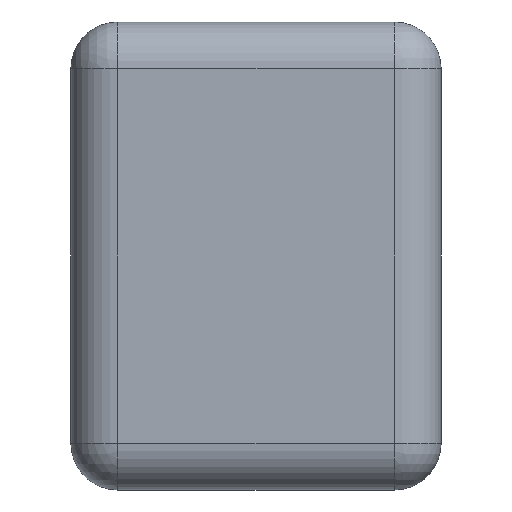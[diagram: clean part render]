
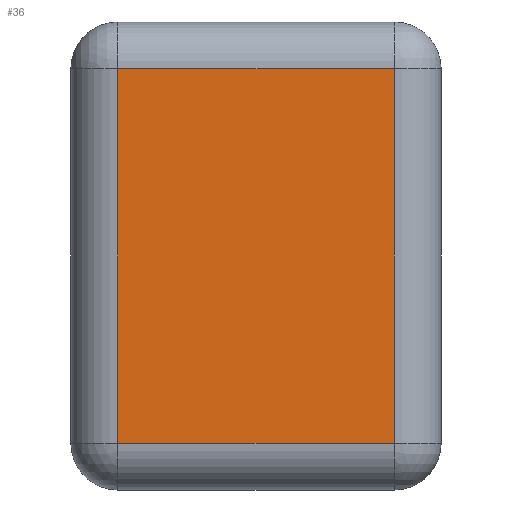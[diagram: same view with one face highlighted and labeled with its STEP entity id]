
A CAD part, left-side view. The second image highlights one B-rep face of the part: STEP entity #36.
In plain terms, the highlighted planar face has unit normal (-1, 0, 0).
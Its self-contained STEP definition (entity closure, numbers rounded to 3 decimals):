
#36 = ADVANCED_FACE('',(#37),#51,.F.);
#37 = FACE_BOUND('',#38,.F.);
#38 = EDGE_LOOP('',(#39,#74,#102,#130));
#39 = ORIENTED_EDGE('',*,*,#40,.F.);
#40 = EDGE_CURVE('',#41,#43,#45,.T.);
#41 = VERTEX_POINT('',#42);
#42 = CARTESIAN_POINT('',(-3.05,-1.98,0.67));
#43 = VERTEX_POINT('',#44);
#44 = CARTESIAN_POINT('',(-3.05,-1.98,6.03));
#45 = SURFACE_CURVE('',#46,(#50,#62),.PCURVE_S1.);
#46 = LINE('',#47,#48);
#47 = CARTESIAN_POINT('',(-3.05,-1.98,0.));
#48 = VECTOR('',#49,1.);
#49 = DIRECTION('',(0.,0.,1.));
#50 = PCURVE('',#51,#56);
#51 = PLANE('',#52);
#52 = AXIS2_PLACEMENT_3D('',#53,#54,#55);
#53 = CARTESIAN_POINT('',(-3.05,-2.65,0.));
#54 = DIRECTION('',(1.,0.,0.));
#55 = DIRECTION('',(0.,0.,1.));
#56 = DEFINITIONAL_REPRESENTATION('',(#57),#61);
#57 = LINE('',#58,#59);
#58 = CARTESIAN_POINT('',(0.,-0.67));
#59 = VECTOR('',#60,1.);
#60 = DIRECTION('',(1.,0.));
#61 = ( GEOMETRIC_REPRESENTATION_CONTEXT(2) 
PARAMETRIC_REPRESENTATION_CONTEXT() REPRESENTATION_CONTEXT('2D SPACE',''
  ) );
#62 = PCURVE('',#63,#68);
#63 = CYLINDRICAL_SURFACE('',#64,0.67);
#64 = AXIS2_PLACEMENT_3D('',#65,#66,#67);
#65 = CARTESIAN_POINT('',(-2.38,-1.98,0.));
#66 = DIRECTION('',(0.,0.,1.));
#67 = DIRECTION('',(-1.,-0.,0.));
#68 = DEFINITIONAL_REPRESENTATION('',(#69),#73);
#69 = LINE('',#70,#71);
#70 = CARTESIAN_POINT('',(0.,0.));
#71 = VECTOR('',#72,1.);
#72 = DIRECTION('',(0.,1.));
#73 = ( GEOMETRIC_REPRESENTATION_CONTEXT(2) 
PARAMETRIC_REPRESENTATION_CONTEXT() REPRESENTATION_CONTEXT('2D SPACE',''
  ) );
#74 = ORIENTED_EDGE('',*,*,#75,.T.);
#75 = EDGE_CURVE('',#41,#76,#78,.T.);
#76 = VERTEX_POINT('',#77);
#77 = CARTESIAN_POINT('',(-3.05,1.98,0.67));
#78 = SURFACE_CURVE('',#79,(#83,#90),.PCURVE_S1.);
#79 = LINE('',#80,#81);
#80 = CARTESIAN_POINT('',(-3.05,-2.65,0.67));
#81 = VECTOR('',#82,1.);
#82 = DIRECTION('',(0.,1.,0.));
#83 = PCURVE('',#51,#84);
#84 = DEFINITIONAL_REPRESENTATION('',(#85),#89);
#85 = LINE('',#86,#87);
#86 = CARTESIAN_POINT('',(0.67,0.));
#87 = VECTOR('',#88,1.);
#88 = DIRECTION('',(0.,-1.));
#89 = ( GEOMETRIC_REPRESENTATION_CONTEXT(2) 
PARAMETRIC_REPRESENTATION_CONTEXT() REPRESENTATION_CONTEXT('2D SPACE',''
  ) );
#90 = PCURVE('',#91,#96);
#91 = CYLINDRICAL_SURFACE('',#92,0.67);
#92 = AXIS2_PLACEMENT_3D('',#93,#94,#95);
#93 = CARTESIAN_POINT('',(-2.38,-2.65,0.67));
#94 = DIRECTION('',(0.,1.,0.));
#95 = DIRECTION('',(-1.,0.,0.));
#96 = DEFINITIONAL_REPRESENTATION('',(#97),#101);
#97 = LINE('',#98,#99);
#98 = CARTESIAN_POINT('',(-0.,0.));
#99 = VECTOR('',#100,1.);
#100 = DIRECTION('',(-0.,1.));
#101 = ( GEOMETRIC_REPRESENTATION_CONTEXT(2) 
PARAMETRIC_REPRESENTATION_CONTEXT() REPRESENTATION_CONTEXT('2D SPACE',''
  ) );
#102 = ORIENTED_EDGE('',*,*,#103,.T.);
#103 = EDGE_CURVE('',#76,#104,#106,.T.);
#104 = VERTEX_POINT('',#105);
#105 = CARTESIAN_POINT('',(-3.05,1.98,6.03));
#106 = SURFACE_CURVE('',#107,(#111,#118),.PCURVE_S1.);
#107 = LINE('',#108,#109);
#108 = CARTESIAN_POINT('',(-3.05,1.98,0.));
#109 = VECTOR('',#110,1.);
#110 = DIRECTION('',(0.,0.,1.));
#111 = PCURVE('',#51,#112);
#112 = DEFINITIONAL_REPRESENTATION('',(#113),#117);
#113 = LINE('',#114,#115);
#114 = CARTESIAN_POINT('',(0.,-4.63));
#115 = VECTOR('',#116,1.);
#116 = DIRECTION('',(1.,0.));
#117 = ( GEOMETRIC_REPRESENTATION_CONTEXT(2) 
PARAMETRIC_REPRESENTATION_CONTEXT() REPRESENTATION_CONTEXT('2D SPACE',''
  ) );
#118 = PCURVE('',#119,#124);
#119 = CYLINDRICAL_SURFACE('',#120,0.67);
#120 = AXIS2_PLACEMENT_3D('',#121,#122,#123);
#121 = CARTESIAN_POINT('',(-2.38,1.98,0.));
#122 = DIRECTION('',(0.,0.,1.));
#123 = DIRECTION('',(-1.,-0.,0.));
#124 = DEFINITIONAL_REPRESENTATION('',(#125),#129);
#125 = LINE('',#126,#127);
#126 = CARTESIAN_POINT('',(-0.,0.));
#127 = VECTOR('',#128,1.);
#128 = DIRECTION('',(-0.,1.));
#129 = ( GEOMETRIC_REPRESENTATION_CONTEXT(2) 
PARAMETRIC_REPRESENTATION_CONTEXT() REPRESENTATION_CONTEXT('2D SPACE',''
  ) );
#130 = ORIENTED_EDGE('',*,*,#131,.F.);
#131 = EDGE_CURVE('',#43,#104,#132,.T.);
#132 = SURFACE_CURVE('',#133,(#137,#144),.PCURVE_S1.);
#133 = LINE('',#134,#135);
#134 = CARTESIAN_POINT('',(-3.05,-2.65,6.03));
#135 = VECTOR('',#136,1.);
#136 = DIRECTION('',(0.,1.,0.));
#137 = PCURVE('',#51,#138);
#138 = DEFINITIONAL_REPRESENTATION('',(#139),#143);
#139 = LINE('',#140,#141);
#140 = CARTESIAN_POINT('',(6.03,0.));
#141 = VECTOR('',#142,1.);
#142 = DIRECTION('',(0.,-1.));
#143 = ( GEOMETRIC_REPRESENTATION_CONTEXT(2) 
PARAMETRIC_REPRESENTATION_CONTEXT() REPRESENTATION_CONTEXT('2D SPACE',''
  ) );
#144 = PCURVE('',#145,#150);
#145 = CYLINDRICAL_SURFACE('',#146,0.67);
#146 = AXIS2_PLACEMENT_3D('',#147,#148,#149);
#147 = CARTESIAN_POINT('',(-2.38,-2.65,6.03));
#148 = DIRECTION('',(0.,1.,0.));
#149 = DIRECTION('',(-1.,0.,0.));
#150 = DEFINITIONAL_REPRESENTATION('',(#151),#155);
#151 = LINE('',#152,#153);
#152 = CARTESIAN_POINT('',(0.,0.));
#153 = VECTOR('',#154,1.);
#154 = DIRECTION('',(0.,1.));
#155 = ( GEOMETRIC_REPRESENTATION_CONTEXT(2) 
PARAMETRIC_REPRESENTATION_CONTEXT() REPRESENTATION_CONTEXT('2D SPACE',''
  ) );
